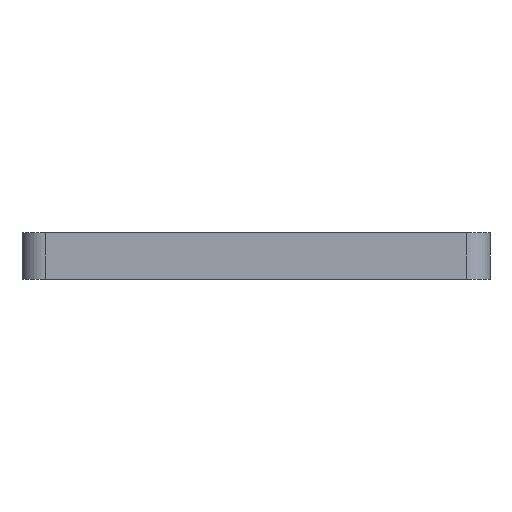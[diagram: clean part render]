
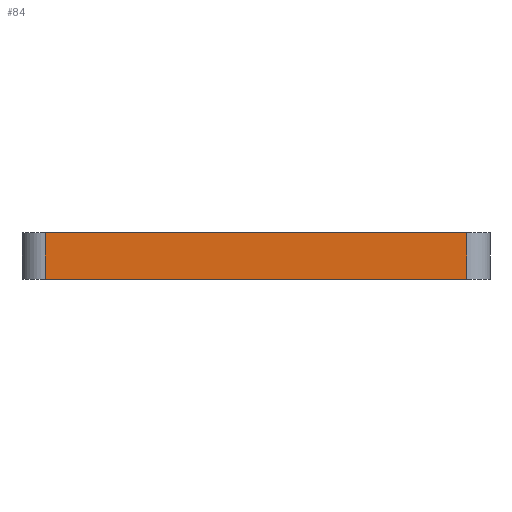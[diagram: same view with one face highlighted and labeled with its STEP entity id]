
A CAD part, left-side view. The second image highlights one B-rep face of the part: STEP entity #84.
In plain terms, the highlighted planar face has unit normal (-1, 0, 0).
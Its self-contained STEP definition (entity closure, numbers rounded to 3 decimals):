
#84=ADVANCED_FACE('23',(#178),#179,.T.);
#178=FACE_OUTER_BOUND('',#279,.T.);
#179=PLANE('',#280);
#279=EDGE_LOOP('',(#609,#610,#611,#612));
#280=AXIS2_PLACEMENT_3D('',#613,#614,#615);
#609=ORIENTED_EDGE('',*,*,#736,.F.);
#610=ORIENTED_EDGE('',*,*,#733,.T.);
#611=ORIENTED_EDGE('',*,*,#738,.F.);
#612=ORIENTED_EDGE('',*,*,#712,.T.);
#613=CARTESIAN_POINT('',(-62.5,15.0,0.0));
#614=DIRECTION('',(-1.0,0.0,0.0));
#615=DIRECTION('',(0.0,1.0,0.0));
#712=EDGE_CURVE('',#820,#818,#821,.T.);
#733=EDGE_CURVE('',#855,#853,#856,.T.);
#736=EDGE_CURVE('',#855,#818,#859,.T.);
#738=EDGE_CURVE('',#820,#853,#861,.T.);
#818=VERTEX_POINT('',#1259);
#820=VERTEX_POINT('',#1261);
#821=LINE('',#1262,#1263);
#853=VERTEX_POINT('',#1303);
#855=VERTEX_POINT('',#1305);
#856=LINE('',#1306,#1307);
#859=LINE('',#1310,#1311);
#861=LINE('',#1313,#1314);
#1259=CARTESIAN_POINT('',(-62.5,28.5,0.0));
#1261=CARTESIAN_POINT('',(-62.5,1.5,0.0));
#1262=CARTESIAN_POINT('',(-62.5,0.,0.0));
#1263=VECTOR('',#1360,1.0);
#1303=CARTESIAN_POINT('',(-62.5,1.5,-3.0));
#1305=CARTESIAN_POINT('',(-62.5,28.5,-3.0));
#1306=CARTESIAN_POINT('',(-62.5,0.,-3.0));
#1307=VECTOR('',#1393,1.0);
#1310=CARTESIAN_POINT('',(-62.5,28.5,0.0));
#1311=VECTOR('',#1397,1.0);
#1313=CARTESIAN_POINT('',(-62.5,1.5,0.0));
#1314=VECTOR('',#1398,1.0);
#1360=DIRECTION('',(0.0,1.0,0.0));
#1393=DIRECTION('',(-0.0,-1.0,-0.0));
#1397=DIRECTION('',(-0.0,-0.0,1.0));
#1398=DIRECTION('',(0.0,-0.0,-1.0));
